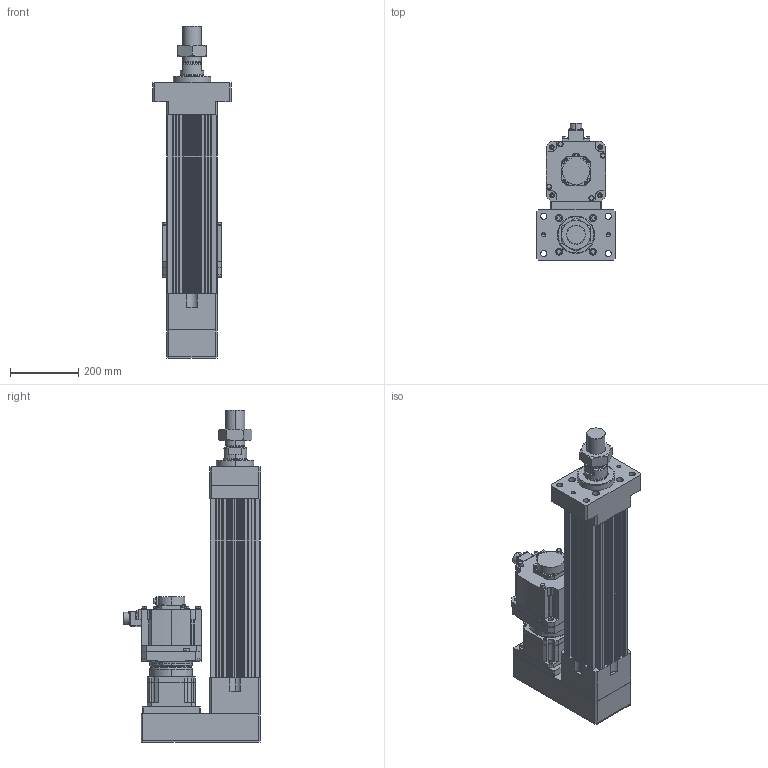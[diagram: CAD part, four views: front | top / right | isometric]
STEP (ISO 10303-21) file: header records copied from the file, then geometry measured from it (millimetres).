
FILE_DESCRIPTION (( 'STEP AP203' ), '1' );
FILE_NAME ('HES150NS(HS)-P250-W035G00-M-FMA.STEP', '2023-01-31T10:15:26', ( 'tms' ), ( '' ), 'SwSTEP 2.0', 'SolidWorks 2013', '' );
FILE_SCHEMA (( 'CONFIG_CONTROL_DESIGN' ));
Length unit declared in the file: millimetre
Products named in the file (9): HG-SR352; AB142-003[HG-SR352]; HES150 ROD M ST250; M56X2.0P; HES150-P250-G142-FMA; AB1421; P1301500001; P0403500801; HES150NS(HS)-P250-W035G00-M-FMA
Assembly tree (8 placements, depth 3):
  HES150NS(HS)-P250-W035G00-M-FMA
    HES150-P250-G142-FMA
    HES150 ROD M ST250
    M56X2.0P
    AB142-003[HG-SR352]
      AB1421
      P1301500001
      P0403500801
    HG-SR352
Bounding box: 230 x 403.85 x 976 mm (x, y, z)
Volume: 17981638 mm3; surface area: 1695930.4 mm2
Topology: 4 solids, 18 shells, 1426 faces, 3722 edges, 2416 vertices
Faces by surface type: cylinder 669, plane 531, cone 144, bspline 76, torus 6
Entity records: 52806 total; most frequent: CARTESIAN_POINT 16363, DIRECTION 7620, ORIENTED_EDGE 7346, EDGE_CURVE 3695, AXIS2_PLACEMENT_3D 2898, VERTEX_POINT 2416, LINE 1824, VECTOR 1824
